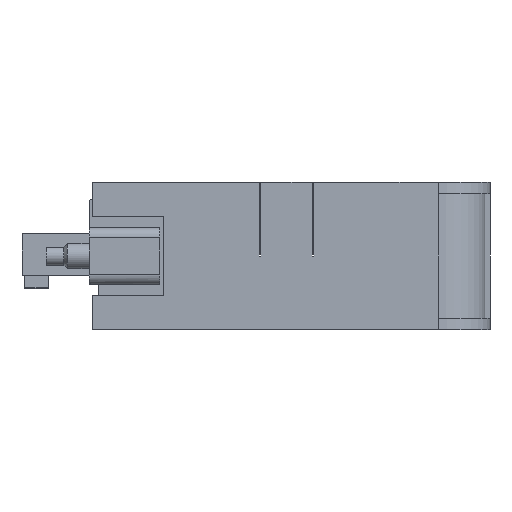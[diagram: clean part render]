
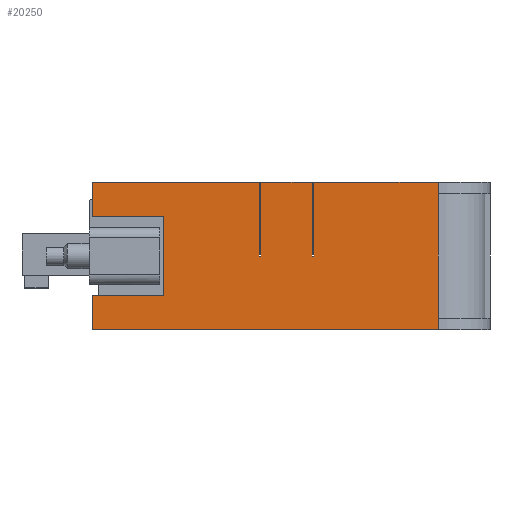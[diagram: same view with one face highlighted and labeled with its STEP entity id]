
A CAD part, front view. The second image highlights one B-rep face of the part: STEP entity #20250.
In plain terms, the highlighted planar face has unit normal (0, -1, 0).
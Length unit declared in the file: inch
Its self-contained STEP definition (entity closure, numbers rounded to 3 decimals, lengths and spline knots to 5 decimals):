
#358=DIRECTION('',(1.,0.,0.));
#359=VECTOR('',#358,0.4805);
#360=CARTESIAN_POINT('',(0.08725,-1.24725,0.2855));
#361=LINE('',#360,#359);
#374=DIRECTION('',(1.,0.,0.));
#375=VECTOR('',#374,0.2);
#376=CARTESIAN_POINT('',(-0.11775,-1.24725,0.2855));
#377=LINE('',#376,#375);
#390=DIRECTION('',(1.,0.,0.));
#391=VECTOR('',#390,0.645);
#392=CARTESIAN_POINT('',(-0.76775,-1.24725,0.2855));
#393=LINE('',#392,#391);
#826=DIRECTION('',(0.,0.,-1.));
#827=VECTOR('',#826,0.305);
#828=CARTESIAN_POINT('',(-0.49275,-1.24725,0.1525));
#829=LINE('',#828,#827);
#882=DIRECTION('',(0.,0.,-1.));
#883=VECTOR('',#882,0.133);
#884=CARTESIAN_POINT('',(-0.76775,-1.24725,-0.1525));
#885=LINE('',#884,#883);
#902=DIRECTION('',(0.,0.,1.));
#903=VECTOR('',#902,0.2855);
#904=CARTESIAN_POINT('',(0.08725,-1.24725,0.));
#905=LINE('',#904,#903);
#906=DIRECTION('',(0.,0.,-1.));
#907=VECTOR('',#906,0.0455);
#908=CARTESIAN_POINT('',(0.56775,-1.24725,-0.24));
#909=LINE('',#908,#907);
#910=DIRECTION('',(1.,0.,0.));
#911=VECTOR('',#910,0.275);
#912=CARTESIAN_POINT('',(-0.76775,-1.24725,-0.1525));
#913=LINE('',#912,#911);
#914=DIRECTION('',(1.,0.,0.));
#915=VECTOR('',#914,0.275);
#916=CARTESIAN_POINT('',(-0.76775,-1.24725,0.1525));
#917=LINE('',#916,#915);
#918=DIRECTION('',(0.,0.,1.));
#919=VECTOR('',#918,0.133);
#920=CARTESIAN_POINT('',(-0.76775,-1.24725,0.1525));
#921=LINE('',#920,#919);
#922=DIRECTION('',(0.,0.,1.));
#923=VECTOR('',#922,0.2855);
#924=CARTESIAN_POINT('',(-0.12275,-1.24725,0.));
#925=LINE('',#924,#923);
#926=DIRECTION('',(0.,0.,1.));
#927=VECTOR('',#926,0.2855);
#928=CARTESIAN_POINT('',(-0.11775,-1.24725,0.));
#929=LINE('',#928,#927);
#934=DIRECTION('',(-1.,0.,0.));
#935=VECTOR('',#934,0.005);
#936=CARTESIAN_POINT('',(0.08725,-1.24725,0.));
#937=LINE('',#936,#935);
#954=DIRECTION('',(0.,0.,1.));
#955=VECTOR('',#954,0.2855);
#956=CARTESIAN_POINT('',(0.08225,-1.24725,0.));
#957=LINE('',#956,#955);
#1010=DIRECTION('',(-1.,0.,0.));
#1011=VECTOR('',#1010,0.005);
#1012=CARTESIAN_POINT('',(-0.11775,-1.24725,0.));
#1013=LINE('',#1012,#1011);
#1014=DIRECTION('',(0.,0.,1.));
#1015=VECTOR('',#1014,0.0455);
#1016=CARTESIAN_POINT('',(0.56775,-1.24725,0.24));
#1017=LINE('',#1016,#1015);
#1048=DIRECTION('',(0.,0.,1.));
#1049=VECTOR('',#1048,0.48);
#1050=CARTESIAN_POINT('',(0.56775,-1.24725,-0.24));
#1051=LINE('',#1050,#1049);
#1082=DIRECTION('',(-1.,0.,0.));
#1083=VECTOR('',#1082,1.3355);
#1084=CARTESIAN_POINT('',(0.56775,-1.24725,-0.2855));
#1085=LINE('',#1084,#1083);
#15092=CARTESIAN_POINT('',(0.56775,-1.24725,-0.2855));
#15093=VERTEX_POINT('',#15092);
#15094=CARTESIAN_POINT('',(-0.76775,-1.24725,-0.2855));
#15095=VERTEX_POINT('',#15094);
#15112=CARTESIAN_POINT('',(-0.76775,-1.24725,-0.1525));
#15113=CARTESIAN_POINT('',(-0.49275,-1.24725,-0.1525));
#15114=VERTEX_POINT('',#15112);
#15115=VERTEX_POINT('',#15113);
#15135=CARTESIAN_POINT('',(0.56775,-1.24725,-0.24));
#15137=VERTEX_POINT('',#15135);
#15138=CARTESIAN_POINT('',(-0.11775,-1.24725,0.2855));
#15139=CARTESIAN_POINT('',(0.08225,-1.24725,0.2855));
#15140=VERTEX_POINT('',#15138);
#15141=VERTEX_POINT('',#15139);
#15146=CARTESIAN_POINT('',(0.08225,-1.24725,0.));
#15148=VERTEX_POINT('',#15146);
#15150=CARTESIAN_POINT('',(-0.11775,-1.24725,0.));
#15152=VERTEX_POINT('',#15150);
#15218=CARTESIAN_POINT('',(0.56775,-1.24725,0.2855));
#15220=VERTEX_POINT('',#15218);
#15227=CARTESIAN_POINT('',(-0.76775,-1.24725,0.2855));
#15229=VERTEX_POINT('',#15227);
#15242=CARTESIAN_POINT('',(-0.76775,-1.24725,0.1525));
#15243=CARTESIAN_POINT('',(-0.49275,-1.24725,0.1525));
#15244=VERTEX_POINT('',#15242);
#15245=VERTEX_POINT('',#15243);
#15262=CARTESIAN_POINT('',(0.56775,-1.24725,0.24));
#15264=VERTEX_POINT('',#15262);
#15326=CARTESIAN_POINT('',(-0.12275,-1.24725,0.2855));
#15328=VERTEX_POINT('',#15326);
#15330=CARTESIAN_POINT('',(0.08725,-1.24725,0.2855));
#15332=VERTEX_POINT('',#15330);
#15462=CARTESIAN_POINT('',(-0.12275,-1.24725,0.));
#15464=VERTEX_POINT('',#15462);
#15466=CARTESIAN_POINT('',(0.08725,-1.24725,0.));
#15468=VERTEX_POINT('',#15466);
#20215=CARTESIAN_POINT('',(0.56775,-1.24725,0.));
#20216=DIRECTION('',(0.,-1.,0.));
#20217=DIRECTION('',(-1.,0.,0.));
#20218=AXIS2_PLACEMENT_3D('',#20215,#20216,#20217);
#20219=PLANE('',#20218);
#20221=ORIENTED_EDGE('',*,*,#20220,.F.);
#20223=ORIENTED_EDGE('',*,*,#20222,.T.);
#20224=ORIENTED_EDGE('',*,*,#19671,.T.);
#20226=ORIENTED_EDGE('',*,*,#20225,.F.);
#20228=ORIENTED_EDGE('',*,*,#20227,.F.);
#20230=ORIENTED_EDGE('',*,*,#20229,.T.);
#20232=ORIENTED_EDGE('',*,*,#20231,.T.);
#20233=ORIENTED_EDGE('',*,*,#20188,.F.);
#20234=ORIENTED_EDGE('',*,*,#20207,.T.);
#20235=ORIENTED_EDGE('',*,*,#20101,.F.);
#20236=ORIENTED_EDGE('',*,*,#20116,.F.);
#20237=ORIENTED_EDGE('',*,*,#20136,.T.);
#20238=ORIENTED_EDGE('',*,*,#19687,.T.);
#20240=ORIENTED_EDGE('',*,*,#20239,.F.);
#20242=ORIENTED_EDGE('',*,*,#20241,.F.);
#20244=ORIENTED_EDGE('',*,*,#20243,.T.);
#20245=ORIENTED_EDGE('',*,*,#19679,.T.);
#20247=ORIENTED_EDGE('',*,*,#20246,.F.);
#20248=EDGE_LOOP('',(#20221,#20223,#20224,#20226,#20228,#20230,#20232,#20233,
#20234,#20235,#20236,#20237,#20238,#20240,#20242,#20244,#20245,#20247));
#20249=FACE_OUTER_BOUND('',#20248,.F.);
#20250=ADVANCED_FACE('',(#20249),#20219,.T.);
#19671=EDGE_CURVE('',#15332,#15220,#361,.T.);
#19679=EDGE_CURVE('',#15140,#15141,#377,.T.);
#19687=EDGE_CURVE('',#15229,#15328,#393,.T.);
#20101=EDGE_CURVE('',#15245,#15115,#829,.T.);
#20116=EDGE_CURVE('',#15244,#15245,#917,.T.);
#20136=EDGE_CURVE('',#15244,#15229,#921,.T.);
#20188=EDGE_CURVE('',#15114,#15095,#885,.T.);
#20207=EDGE_CURVE('',#15114,#15115,#913,.T.);
#20220=EDGE_CURVE('',#15468,#15148,#937,.T.);
#20222=EDGE_CURVE('',#15468,#15332,#905,.T.);
#20225=EDGE_CURVE('',#15264,#15220,#1017,.T.);
#20227=EDGE_CURVE('',#15137,#15264,#1051,.T.);
#20229=EDGE_CURVE('',#15137,#15093,#909,.T.);
#20231=EDGE_CURVE('',#15093,#15095,#1085,.T.);
#20239=EDGE_CURVE('',#15464,#15328,#925,.T.);
#20241=EDGE_CURVE('',#15152,#15464,#1013,.T.);
#20243=EDGE_CURVE('',#15152,#15140,#929,.T.);
#20246=EDGE_CURVE('',#15148,#15141,#957,.T.);
